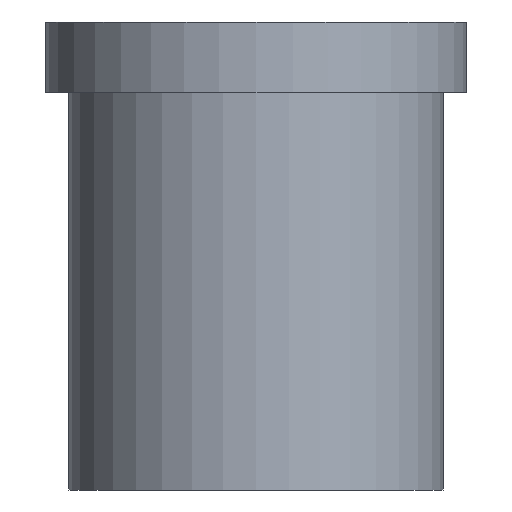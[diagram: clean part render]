
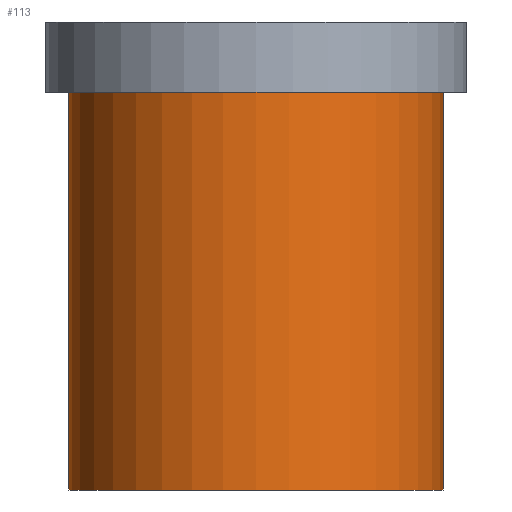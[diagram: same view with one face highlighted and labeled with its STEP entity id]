
A CAD part, front view. The second image highlights one B-rep face of the part: STEP entity #113.
In plain terms, the highlighted cylindrical face has radius 8 mm (diameter 16 mm), a partial arc.
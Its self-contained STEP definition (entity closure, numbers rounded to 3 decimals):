
#113=ADVANCED_FACE('',(#126),#120,.T.);
#120=CYLINDRICAL_SURFACE('',#249,8.);
#126=FACE_OUTER_BOUND('',#136,.T.);
#136=EDGE_LOOP('',(#179,#180,#181,#182));
#148=CIRCLE('',#244,8.);
#150=CIRCLE('',#248,8.);
#179=ORIENTED_EDGE('',*,*,#213,.F.);
#180=ORIENTED_EDGE('',*,*,#212,.T.);
#181=ORIENTED_EDGE('',*,*,#215,.T.);
#182=ORIENTED_EDGE('',*,*,#216,.F.);
#195=VERTEX_POINT('',#328);
#196=VERTEX_POINT('',#329);
#197=VERTEX_POINT('',#333);
#198=VERTEX_POINT('',#335);
#212=EDGE_CURVE('',#196,#195,#148,.T.);
#213=EDGE_CURVE('',#196,#197,#221,.T.);
#215=EDGE_CURVE('',#195,#198,#222,.T.);
#216=EDGE_CURVE('',#197,#198,#150,.T.);
#221=LINE('',#332,#227);
#222=LINE('',#336,#228);
#227=VECTOR('',#289,1.);
#228=VECTOR('',#292,1.);
#244=AXIS2_PLACEMENT_3D('',#330,#285,#286);
#248=AXIS2_PLACEMENT_3D('',#338,#295,#296);
#249=AXIS2_PLACEMENT_3D('',#339,#297,#298);
#285=DIRECTION('',(0.,0.,1.));
#286=DIRECTION('',(0.,1.,0.));
#289=DIRECTION('',(0.,0.,1.));
#292=DIRECTION('',(0.,0.,1.));
#295=DIRECTION('',(0.,0.,1.));
#296=DIRECTION('',(0.,1.,0.));
#297=DIRECTION('',(0.,0.,1.));
#298=DIRECTION('',(0.,-1.,0.));
#328=CARTESIAN_POINT('',(8.,0.,-17.));
#329=CARTESIAN_POINT('',(-8.,0.,-17.));
#330=CARTESIAN_POINT('',(0.,0.,-17.));
#332=CARTESIAN_POINT('',(-8.,0.,-17.));
#333=CARTESIAN_POINT('',(-8.,0.,0.));
#335=CARTESIAN_POINT('',(8.,0.,0.));
#336=CARTESIAN_POINT('',(8.,0.,-17.));
#338=CARTESIAN_POINT('',(0.,0.,0.));
#339=CARTESIAN_POINT('',(0.,0.,-17.));
